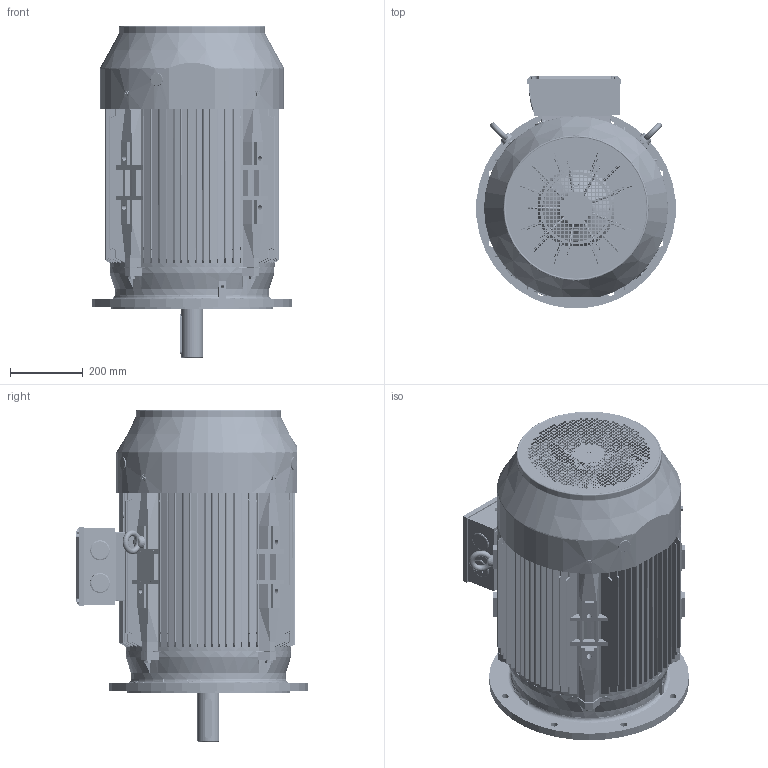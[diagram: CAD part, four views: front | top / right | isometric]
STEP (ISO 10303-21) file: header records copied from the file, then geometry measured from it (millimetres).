
FILE_DESCRIPTION (( 'STEP AP203' ), '1' );
FILE_NAME ('TC 250M-2 B5外形图.STEP', '2013-06-25T08:14:56', ( '微软用户' ), ( '微软中国' ), 'SwSTEP 2.0', 'SolidWorks 2008', '' );
FILE_SCHEMA (( 'CONFIG_CONTROL_DESIGN' ));
Length unit declared in the file: millimetre
Products named in the file (25): TC 250M B5机座_默认; TC250B3后端盖（TFC400T后端盖）_默认; TC 250 轴承外盖NDE_默认; TC 250M-2 转子_默认; TC 250 轴承外盖DE_默认; IE2 250-4P 风叶_默认; TC 250 风罩_默认; TC 250-280S接线盒座_默认; 螺塞M50_默认; M12-45_默认; M10-80_默认; 10_默认; M8-12_默认; M8-20_默认; 吊环M16_默认; TC 250 B5法兰_默认; 6314_默认; TC 250M-2 转轴_默认; 平键18-110_默认; TC 250-280S接线盒盖_默认; 油封70-95-10_默认; 12_默认; 扣塞_默认; 铜油嘴_默认; TC 250M-2 B5俋倛芞
Assembly tree (46 placements, depth 3):
  TC 250M-2 B5俋倛芞
    M10-80_默认  x4
    M8-12_默认  x4
    TC 250-280S接线盒盖_默认
    10_默认  x4
    TC250B3后端盖（TFC400T后端盖）_默认
    TC 250-280S接线盒座_默认
    12_默认  x4
    M8-20_默认  x4
    TC 250 B5法兰_默认
    TC 250M B5机座_默认
    M12-45_默认  x4
    IE2 250-4P 风叶_默认
    TC 250M-2 转子_默认
      TC 250M-2 转轴_默认
      6314_默认  x2
      平键18-110_默认
    扣塞_默认  x2
    螺塞M50_默认  x2
    吊环M16_默认  x2
    TC 250 风罩_默认
    TC 250 轴承外盖DE_默认
    铜油嘴_默认
    TC 250 轴承外盖NDE_默认
    油封70-95-10_默认
Bounding box: 547.91 x 637.95 x 913.5 mm (x, y, z)
Volume: 26573067.5 mm3; surface area: 5931799.9 mm2
Topology: 46 solids, 47 shells, 9345 faces, 27056 edges, 17817 vertices
Faces by surface type: plane 4495, cylinder 3847, cone 358, bspline 316, torus 267, sphere 62
Entity records: 315152 total; most frequent: CARTESIAN_POINT 75870, ORIENTED_EDGE 50530, DIRECTION 48487, EDGE_CURVE 25265, AXIS2_PLACEMENT_3D 16705, VERTEX_POINT 16681, VECTOR 15077, LINE 15077
